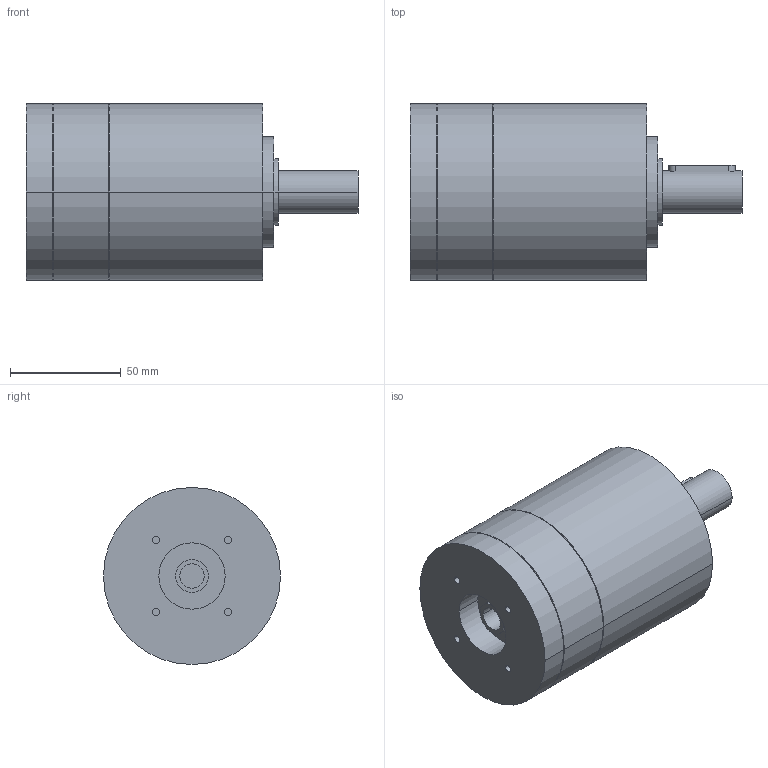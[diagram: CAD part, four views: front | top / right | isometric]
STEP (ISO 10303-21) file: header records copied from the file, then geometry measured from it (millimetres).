
FILE_DESCRIPTION(('CoCreate Modeling STEP Export'),'2;1');
FILE_NAME('GPR100_ig-3-4-5-6_19_B14_11_P24.stp','2014-08-26T10:01:53',(''),(''),'CoCreate Modeling STEP processor for AP214 (Solid Model)','CoCreate Modeling 16.00C 25-Feb-2009 (C) Parametric Technology GmbH','');
FILE_SCHEMA(('AUTOMOTIVE_DESIGN { 1 0 10303 214 1 1 1 1 }'));
Length unit declared in the file: millimetre
Products named in the file (2): GPR100_ig-3-4-5-6_19_B14_11_P24
Assembly tree (1 placements, depth 2):
  GPR100_ig-3-4-5-6_19_B14_11_P24
    GPR100_ig-3-4-5-6_19_B14_11_P24
Bounding box: 150 x 80 x 80 mm (x, y, z)
Volume: 547620.5 mm3; surface area: 44686.2 mm2
Topology: 1 solids, 1 shells, 65 faces, 161 edges, 113 vertices
Faces by surface type: cylinder 38, plane 21, cone 6
Entity records: 1651 total; most frequent: ORIENTED_EDGE 318, CARTESIAN_POINT 309, DIRECTION 214, EDGE_CURVE 159, VERTEX_POINT 113, AXIS2_PLACEMENT_3D 82, EDGE_LOOP 82, FACE_OUTER_BOUND 65
